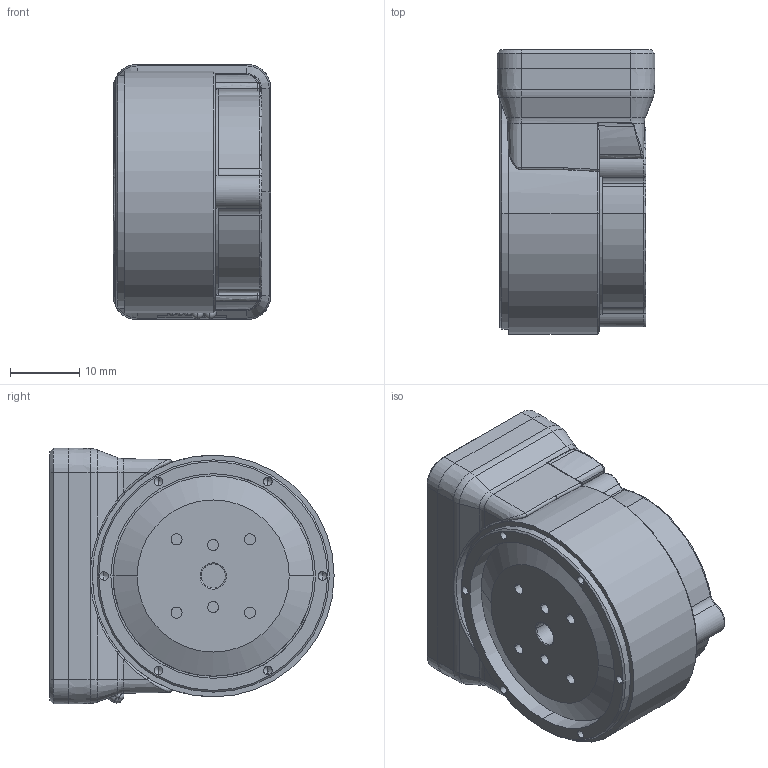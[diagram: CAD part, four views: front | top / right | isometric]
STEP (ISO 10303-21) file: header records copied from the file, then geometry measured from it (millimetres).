
FILE_DESCRIPTION (( 'STEP AP214' ), '1' );
FILE_NAME ('DD_23053D.STEP', '2019-04-26T05:43:44', ( 'Microsoft' ), ( 'Microsoft' ), 'SwSTEP 2.0', 'SolidWorks 2018', '' );
FILE_SCHEMA (( 'AUTOMOTIVE_DESIGN' ));
Length unit declared in the file: millimetre
Products named in the file (1): DD_23053D
Bounding box: 22.85 x 41.13 x 37 mm (x, y, z)
Volume: 22094.4 mm3; surface area: 17224.2 mm2
Topology: 17 solids, 17 shells, 935 faces, 2232 edges, 1327 vertices
Faces by surface type: cylinder 354, plane 248, cone 211, torus 53, bspline 53, sphere 16
Entity records: 40780 total; most frequent: CARTESIAN_POINT 9601, ORIENTED_EDGE 4396, DIRECTION 4161, EDGE_CURVE 2198, AXIS2_PLACEMENT_3D 1551, VERTEX_POINT 1317, VECTOR 1059, LINE 1059
